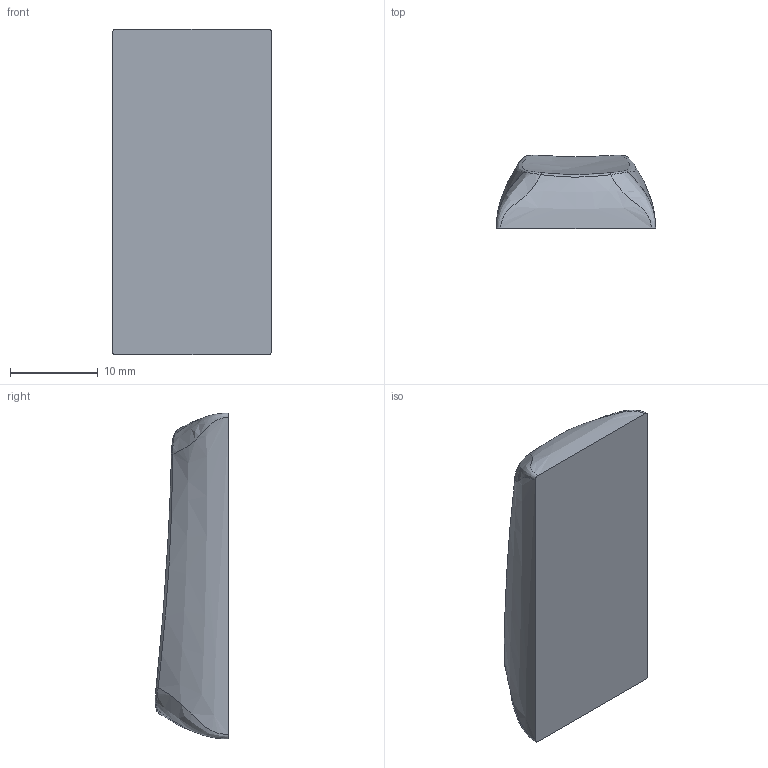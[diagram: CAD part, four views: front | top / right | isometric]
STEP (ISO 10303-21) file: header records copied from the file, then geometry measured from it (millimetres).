
FILE_DESCRIPTION (( 'STEP AP203' ), '1' );
FILE_NAME ('R4_2U Vertikal_base_v3.2_GMK.STEP', '2023-03-07T11:03:14', ( '' ), ( '' ), 'SwSTEP 2.0', 'SolidWorks 2022', '' );
FILE_SCHEMA (( 'CONFIG_CONTROL_DESIGN' ));
Length unit declared in the file: millimetre
Products named in the file (1): R4_2U Vertikal_base_v3.2_GMK
Bounding box: 18.2 x 8.39 x 37.25 mm (x, y, z)
Volume: 4071.3 mm3; surface area: 1874.2 mm2
Topology: 1 solids, 1 shells, 18 faces, 40 edges, 24 vertices
Faces by surface type: bspline 17, plane 1
Entity records: 2945 total; most frequent: CARTESIAN_POINT 2612, ORIENTED_EDGE 80, EDGE_CURVE 40, B_SPLINE_CURVE_WITH_KNOTS 37, VERTEX_POINT 24, FACE_OUTER_BOUND 18, EDGE_LOOP 18, ADVANCED_FACE 18
